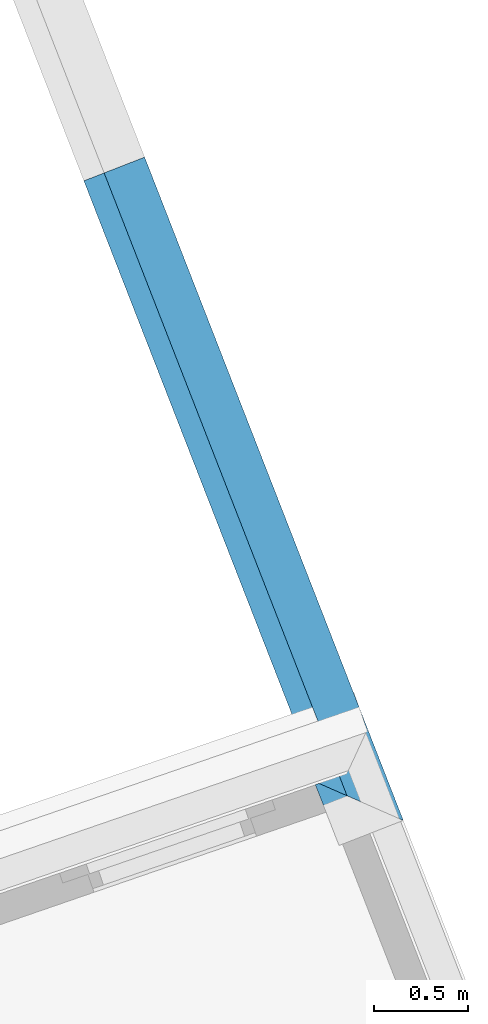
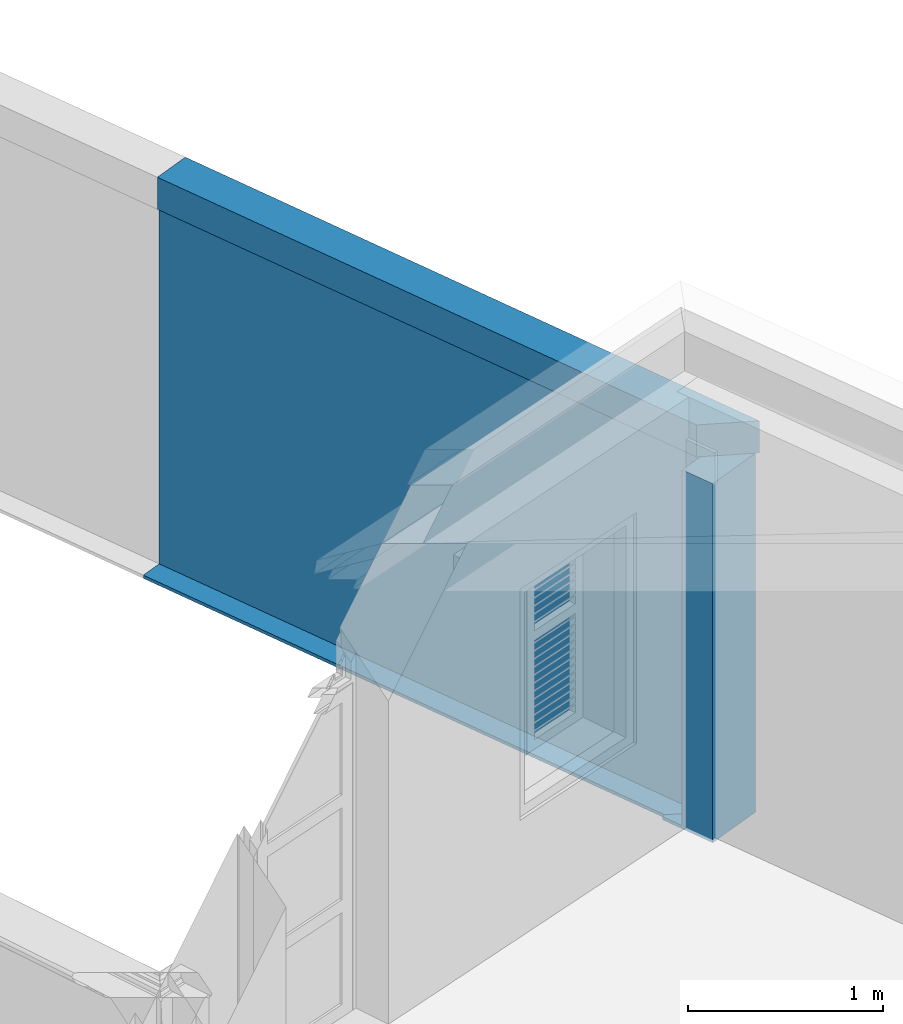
# One storey, part 9 of 16: 3 walls.
"""IFC4 building model written with IfcOpenShell, lengths in metres."""

from ifc_helpers import new_model, si_unit, frame, origin_with_axes, place, context, subcontext, project, spatial, polyline, outline, extrude, clip, halfspace, material_profile, profile_set, profile_usage, type_object, element, save


model = new_model("IFC4")

# Units and contexts
model_context = context("Model", 3, world=origin_with_axes())
body_context = subcontext(model_context, "Body", "Model", "MODEL_VIEW")
ifc_project = project(units=[si_unit("PLANEANGLEUNIT", "RADIAN"), si_unit("MASSUNIT", "GRAM", prefix="KILO"), si_unit("FORCEUNIT", "NEWTON", prefix="KILO"), si_unit("LENGTHUNIT", "METRE"), si_unit("AREAUNIT", "SQUARE_METRE"), si_unit("VOLUMEUNIT", "CUBIC_METRE")], contexts=[model_context, model_context])

# Site, building, storey
site_placement = place(None, origin_with_axes())
site = spatial("IfcSite", under=ifc_project, at=site_placement, Name="Site plot-8", CompositionType="ELEMENT")
building_placement = place(None, origin_with_axes())
building = spatial("IfcBuilding", under=site, at=building_placement, Name="Building plot-8", CompositionType="ELEMENT")
storey_placement = place(None, frame((0.0, 0.0, 3.0), z_axis=(0.0, 0.0, 1.0), x_axis=(1.0, 0.0, 0.0)))
storey = spatial("IfcBuildingStorey", under=building, at=storey_placement, Name="plot-8 1", CompositionType="ELEMENT", Elevation=3.0)

# Walls
ifc_material_profile_1 = material_profile(None, outline(polyline([(0.25, 0.0), (0.25, 2.245), (0.05, 2.245), (0.05, 0.02), (-0.08, 0.02), (-0.08, 0.0), (0.25, 0.0)])))
ifc_profile_set_1 = profile_set([ifc_material_profile_1])
ifc_profile_usage_1 = profile_usage(ifc_profile_set_1)
wall_type_1 = type_object("IfcWallType", Name="parapet party_0", PredefinedType="PARAPET", material=ifc_profile_set_1)
wall_1_placement = place(storey_placement, frame((-1.96367117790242, 17.7374902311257, 0.0), z_axis=(-0.931656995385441, -0.363339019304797, 0.0), x_axis=(0.363339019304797, -0.931656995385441, 0.0)))
element("IfcWall", 1, at=wall_1_placement, inside=storey, type_object=wall_type_1, material=ifc_profile_usage_1, Name="parapet party_0", context=body_context, shape_type="Clipping", body=[
    clip(clip(extrude(outline(polyline([(0.25, 0.0), (0.25, 2.245), (0.05, 2.245), (0.05, 0.02), (-0.08, 0.02), (-0.08, 0.0), (0.25, 0.0)])), origin_with_axes(), (0.0, 0.0, 1.0), 2.1), halfspace(frame((0.0, 0.0, 1.1), z_axis=(-6.12323399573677e-17, 0.0, -1.0), x_axis=(0.0, 1.0, 0.0)), True)), halfspace(frame((0.0, 0.0, 1.0), z_axis=(-0.70710678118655, 0.0, -0.707106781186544), x_axis=(0.0, 1.0, 0.0)), False)),
])
ifc_profile_usage_2 = profile_usage(ifc_profile_set_1)
wall_2_placement = place(storey_placement, frame((-4.5312918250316, 21.5690130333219, 0.0), z_axis=(0.363339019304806, -0.931656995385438, 0.0), x_axis=(0.931656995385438, 0.363339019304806, 0.0)))
element("IfcWall", 2, at=wall_2_placement, inside=storey, type_object=wall_type_1, material=ifc_profile_usage_2, Name="parapet party_0", context=body_context, shape_type="Clipping", body=[
    clip(clip(extrude(outline(polyline([(0.25, 0.0), (0.25, 2.245), (0.05, 2.245), (0.05, 0.02), (-0.08, 0.02), (-0.08, 0.0), (0.25, 0.0)])), origin_with_axes(), (0.0, 0.0, 1.0), 5.50258178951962), halfspace(frame((0.0, 0.0, 4.50258178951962), z_axis=(0.707106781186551, 0.0, -0.707106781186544), x_axis=(0.0, 1.0, 0.0)), True)), halfspace(frame((0.0, 0.0, 1.0), z_axis=(-5.0532154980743e-16, 0.0, -1.0), x_axis=(0.0, 1.0, 0.0)), False)),
])
ifc_material_profile_2 = material_profile(None, outline(polyline([(0.265, 2.245), (0.265, 2.445), (0.035, 2.445), (0.035, 2.245), (0.265, 2.245)])))
ifc_profile_set_2 = profile_set([ifc_material_profile_2])
ifc_profile_usage_3 = profile_usage(ifc_profile_set_2)
wall_type_2 = type_object("IfcWallType", Name="parapet party_1", PredefinedType="PARAPET", material=ifc_profile_set_2)
wall_3_placement = place(storey_placement, frame((-4.5312918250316, 21.5690130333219, 0.0), z_axis=(0.363339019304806, -0.931656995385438, 0.0), x_axis=(0.931656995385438, 0.363339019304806, 0.0)))
element("IfcWall", 3, at=wall_3_placement, inside=storey, type_object=wall_type_2, material=ifc_profile_usage_3, Name="parapet party_1", context=body_context, shape_type="Clipping", body=[
    clip(clip(extrude(outline(polyline([(0.265, 2.245), (0.265, 2.445), (0.035, 2.445), (0.035, 2.245), (0.265, 2.245)])), origin_with_axes(), (0.0, 0.0, 1.0), 5.50258178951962), halfspace(frame((0.0, 0.0, 4.50258178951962), z_axis=(0.707106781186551, 0.0, -0.707106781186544), x_axis=(0.0, 1.0, 0.0)), True)), halfspace(frame((0.0, 0.0, 1.0), z_axis=(-5.0532154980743e-16, 0.0, -1.0), x_axis=(0.0, 1.0, 0.0)), False)),
])

save(model, "model.ifc")
